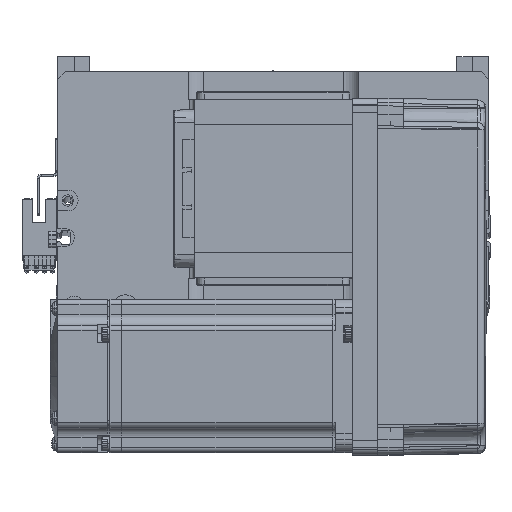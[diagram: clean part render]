
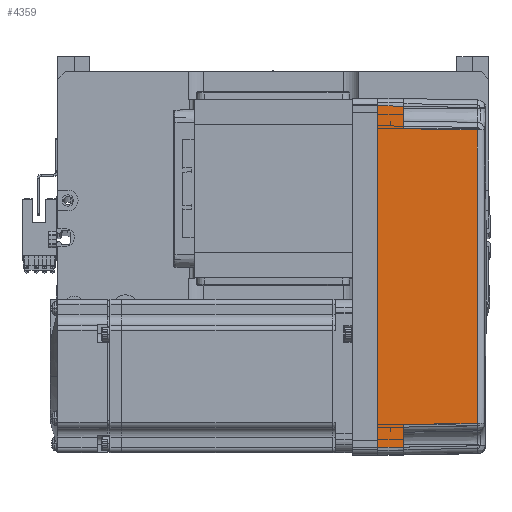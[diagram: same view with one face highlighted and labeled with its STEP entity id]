
A CAD part, top view. The second image highlights one B-rep face of the part: STEP entity #4359.
In plain terms, the highlighted planar face has unit normal (0.018, 0, 1) as drawn and (0, 1, 0.017) by its records, which use the part's own axes.
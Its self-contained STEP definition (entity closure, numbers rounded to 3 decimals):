
#335 = VECTOR ( 'NONE', #35151, 1000. ) ;
#582 = ORIENTED_EDGE ( 'NONE', *, *, #4435, .T. ) ;
#2066 = LINE ( 'NONE', #12096, #32160 ) ;
#2068 = ORIENTED_EDGE ( 'NONE', *, *, #6522, .T. ) ;
#2145 = PLANE ( 'NONE',  #25722 ) ;
#2568 = LINE ( 'NONE', #56452, #13450 ) ;
#2637 = CARTESIAN_POINT ( 'NONE',  ( 70., 35.825, 10. ) ) ;
#3806 = CARTESIAN_POINT ( 'NONE',  ( -19.165, 35.316, 39.181 ) ) ;
#4359 = ADVANCED_FACE ( 'NONE', ( #32029 ), #2145, .T. ) ;
#4435 = EDGE_CURVE ( 'NONE', #48146, #33552, #35176, .T. ) ;
#5015 = VECTOR ( 'NONE', #22543, 1000. ) ;
#5444 = EDGE_CURVE ( 'NONE', #33783, #60116, #38105, .T. ) ;
#5612 = CARTESIAN_POINT ( 'NONE',  ( 66.826, 35.825, 10. ) ) ;
#6522 = EDGE_CURVE ( 'NONE', #30907, #58879, #26512, .T. ) ;
#6586 = VECTOR ( 'NONE', #46352, 1000. ) ;
#6912 = CARTESIAN_POINT ( 'NONE',  ( 70., 35.825, 10. ) ) ;
#9577 = EDGE_LOOP ( 'NONE', ( #15161, #62435, #18877, #2068, #34880, #582, #53741, #44601 ) ) ;
#10318 = VECTOR ( 'NONE', #43941, 1000. ) ;
#10929 = EDGE_CURVE ( 'NONE', #58879, #48146, #60386, .T. ) ;
#11657 = DIRECTION ( 'NONE',  ( 0., -0.017, 1. ) ) ;
#12096 = CARTESIAN_POINT ( 'NONE',  ( -67., 36., 0. ) ) ;
#12213 = CARTESIAN_POINT ( 'NONE',  ( -67., 36., 0. ) ) ;
#12765 = CARTESIAN_POINT ( 'NONE',  ( -57.495, 35.32, 38.985 ) ) ;
#13450 = VECTOR ( 'NONE', #41411, 1000. ) ;
#15161 = ORIENTED_EDGE ( 'NONE', *, *, #47946, .T. ) ;
#17363 = CARTESIAN_POINT ( 'NONE',  ( 67.001, 36.001, -0.052 ) ) ;
#17484 = VERTEX_POINT ( 'NONE', #12213 ) ;
#18118 = LINE ( 'NONE', #17363, #5015 ) ;
#18181 = DIRECTION ( 'NONE',  ( 1., 0., 0. ) ) ;
#18877 = ORIENTED_EDGE ( 'NONE', *, *, #29463, .T. ) ;
#18993 = CARTESIAN_POINT ( 'NONE',  ( 58., 35.825, 10. ) ) ;
#20245 = CARTESIAN_POINT ( 'NONE',  ( 57.495, 35.32, 38.985 ) ) ;
#22543 = DIRECTION ( 'NONE',  ( -0.017, -0.017, 1. ) ) ;
#25711 = VECTOR ( 'NONE', #18181, 1000. ) ;
#25722 = AXIS2_PLACEMENT_3D ( 'NONE', #61607, #32349, #11657 ) ;
#26512 = B_SPLINE_CURVE_WITH_KNOTS ( 'NONE', 3,
 ( #57879, #3806, #38364, #27748 ),
 .UNSPECIFIED., .F., .F.,
 ( 4, 4 ),
 ( 0., 1. ),
 .UNSPECIFIED. ) ;
#27209 = DIRECTION ( 'NONE',  ( 0.017, -0.017, 1. ) ) ;
#27748 = CARTESIAN_POINT ( 'NONE',  ( 57.495, 35.32, 38.985 ) ) ;
#28878 = CARTESIAN_POINT ( 'NONE',  ( -66.826, 35.825, 10. ) ) ;
#29463 = EDGE_CURVE ( 'NONE', #60116, #30907, #38149, .T. ) ;
#30907 = VERTEX_POINT ( 'NONE', #12765 ) ;
#32029 = FACE_OUTER_BOUND ( 'NONE', #9577, .T. ) ;
#32160 = VECTOR ( 'NONE', #27209, 1000. ) ;
#32349 = DIRECTION ( 'NONE',  ( 0., 1., 0.017 ) ) ;
#33552 = VERTEX_POINT ( 'NONE', #5612 ) ;
#33733 = VERTEX_POINT ( 'NONE', #42684 ) ;
#33783 = VERTEX_POINT ( 'NONE', #28878 ) ;
#34880 = ORIENTED_EDGE ( 'NONE', *, *, #10929, .T. ) ;
#35151 = DIRECTION ( 'NONE',  ( 0.017, 0.017, -1. ) ) ;
#35176 = LINE ( 'NONE', #6912, #6586 ) ;
#35570 = EDGE_CURVE ( 'NONE', #33733, #33552, #18118, .T. ) ;
#38105 = LINE ( 'NONE', #2637, #25711 ) ;
#38149 = LINE ( 'NONE', #39456, #10318 ) ;
#38364 = CARTESIAN_POINT ( 'NONE',  ( 19.165, 35.316, 39.181 ) ) ;
#39456 = CARTESIAN_POINT ( 'NONE',  ( -58., 35.825, 10. ) ) ;
#41411 = DIRECTION ( 'NONE',  ( 1., 0., 0. ) ) ;
#42684 = CARTESIAN_POINT ( 'NONE',  ( 67., 36., 0. ) ) ;
#43941 = DIRECTION ( 'NONE',  ( 0.017, -0.017, 1. ) ) ;
#44601 = ORIENTED_EDGE ( 'NONE', *, *, #60569, .F. ) ;
#46352 = DIRECTION ( 'NONE',  ( 1., 0., 0. ) ) ;
#47946 = EDGE_CURVE ( 'NONE', #17484, #33783, #2066, .T. ) ;
#48146 = VERTEX_POINT ( 'NONE', #18993 ) ;
#53741 = ORIENTED_EDGE ( 'NONE', *, *, #35570, .F. ) ;
#56310 = CARTESIAN_POINT ( 'NONE',  ( -58., 35.825, 10. ) ) ;
#56452 = CARTESIAN_POINT ( 'NONE',  ( 0., 36., 0. ) ) ;
#57879 = CARTESIAN_POINT ( 'NONE',  ( -57.495, 35.32, 38.985 ) ) ;
#58498 = CARTESIAN_POINT ( 'NONE',  ( 57.495, 35.32, 38.985 ) ) ;
#58879 = VERTEX_POINT ( 'NONE', #58498 ) ;
#60116 = VERTEX_POINT ( 'NONE', #56310 ) ;
#60386 = LINE ( 'NONE', #20245, #335 ) ;
#60569 = EDGE_CURVE ( 'NONE', #17484, #33733, #2568, .T. ) ;
#61607 = CARTESIAN_POINT ( 'NONE',  ( 70., 36., 0. ) ) ;
#62435 = ORIENTED_EDGE ( 'NONE', *, *, #5444, .T. ) ;
